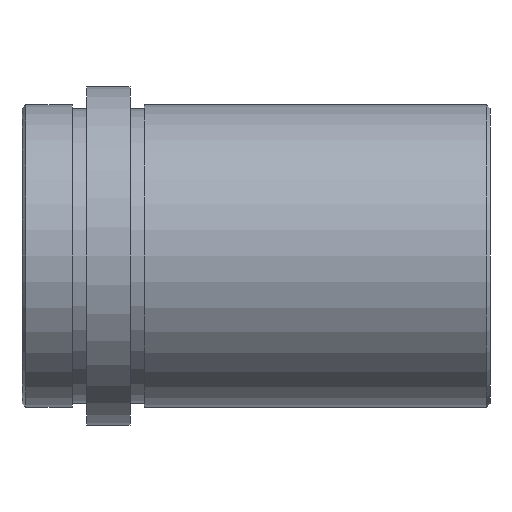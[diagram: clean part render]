
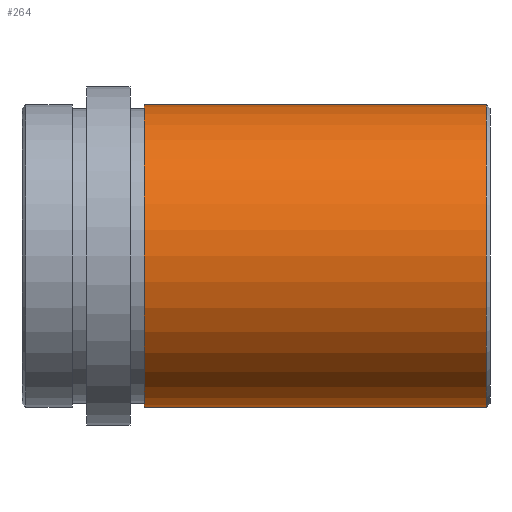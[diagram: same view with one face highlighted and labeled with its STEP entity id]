
A CAD part, front view. The second image highlights one B-rep face of the part: STEP entity #264.
In plain terms, the highlighted cylindrical face has radius 21 mm (diameter 42 mm), a partial arc.
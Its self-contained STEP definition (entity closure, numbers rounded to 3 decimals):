
#6 = CARTESIAN_POINT ( 'NONE',  ( 64.5, 0., -21. ) ) ;
#10 = CARTESIAN_POINT ( 'NONE',  ( 17., 0., 21. ) ) ;
#26 = CARTESIAN_POINT ( 'NONE',  ( 64.5, 0., 21. ) ) ;
#53 = CARTESIAN_POINT ( 'NONE',  ( 75., 0., 0. ) ) ;
#112 = CYLINDRICAL_SURFACE ( 'NONE', #646, 21. ) ;
#139 = DIRECTION ( 'NONE',  ( 0., 0., 1. ) ) ;
#158 = FACE_OUTER_BOUND ( 'NONE', #349, .T. ) ;
#163 = DIRECTION ( 'NONE',  ( -1., 0., 0. ) ) ;
#164 = CARTESIAN_POINT ( 'NONE',  ( 17., 0., -21. ) ) ;
#192 = EDGE_CURVE ( 'NONE', #525, #325, #542, .T. ) ;
#214 = EDGE_CURVE ( 'NONE', #564, #485, #486, .T. ) ;
#223 = EDGE_CURVE ( 'NONE', #564, #525, #630, .T. ) ;
#233 = EDGE_CURVE ( 'NONE', #485, #325, #683, .T. ) ;
#236 = VECTOR ( 'NONE', #491, 1000. ) ;
#264 = ADVANCED_FACE ( 'NONE', ( #158 ), #112, .T. ) ;
#317 = CARTESIAN_POINT ( 'NONE',  ( 75., 0., 21. ) ) ;
#325 = VERTEX_POINT ( 'NONE', #10 ) ;
#347 = ORIENTED_EDGE ( 'NONE', *, *, #192, .T. ) ;
#349 = EDGE_LOOP ( 'NONE', ( #438, #543, #347, #554 ) ) ;
#362 = DIRECTION ( 'NONE',  ( 0., 0., 1. ) ) ;
#384 = DIRECTION ( 'NONE',  ( 0., 0., 1. ) ) ;
#416 = DIRECTION ( 'NONE',  ( -1., 0., 0. ) ) ;
#427 = CARTESIAN_POINT ( 'NONE',  ( 17., 0., 0. ) ) ;
#438 = ORIENTED_EDGE ( 'NONE', *, *, #214, .F. ) ;
#484 = CARTESIAN_POINT ( 'NONE',  ( 75., 0., -21. ) ) ;
#485 = VERTEX_POINT ( 'NONE', #164 ) ;
#486 = LINE ( 'NONE', #484, #679 ) ;
#491 = DIRECTION ( 'NONE',  ( -1., 0., 0. ) ) ;
#525 = VERTEX_POINT ( 'NONE', #26 ) ;
#527 = DIRECTION ( 'NONE',  ( -1., 0., 0. ) ) ;
#542 = LINE ( 'NONE', #317, #236 ) ;
#543 = ORIENTED_EDGE ( 'NONE', *, *, #223, .T. ) ;
#554 = ORIENTED_EDGE ( 'NONE', *, *, #233, .F. ) ;
#564 = VERTEX_POINT ( 'NONE', #6 ) ;
#571 = DIRECTION ( 'NONE',  ( -1., 0., 0. ) ) ;
#601 = CARTESIAN_POINT ( 'NONE',  ( 64.5, 0., 0. ) ) ;
#627 = AXIS2_PLACEMENT_3D ( 'NONE', #601, #571, #362 ) ;
#630 = CIRCLE ( 'NONE', #627, 21. ) ;
#646 = AXIS2_PLACEMENT_3D ( 'NONE', #53, #163, #139 ) ;
#661 = AXIS2_PLACEMENT_3D ( 'NONE', #427, #416, #384 ) ;
#679 = VECTOR ( 'NONE', #527, 1000. ) ;
#683 = CIRCLE ( 'NONE', #661, 21. ) ;
